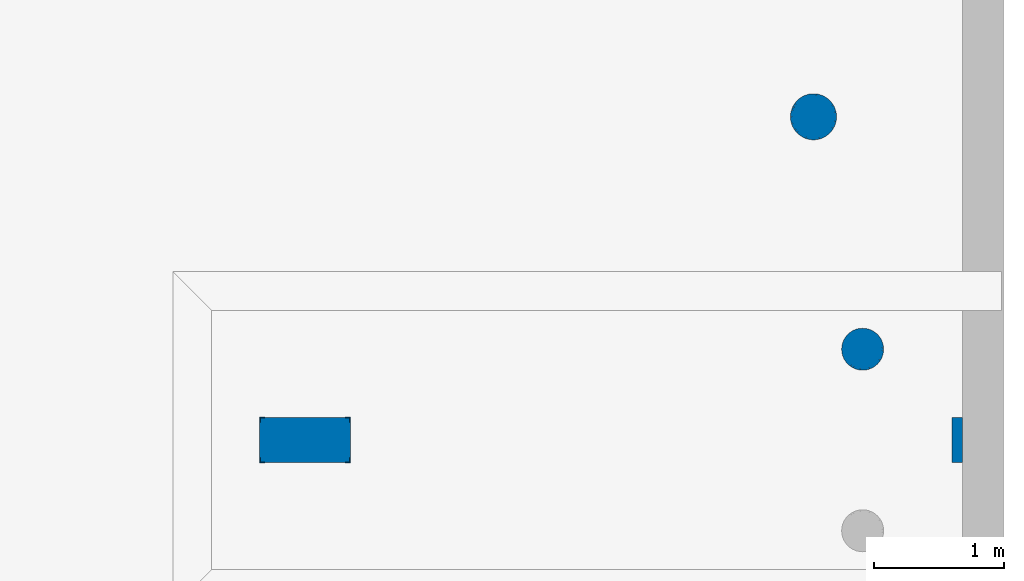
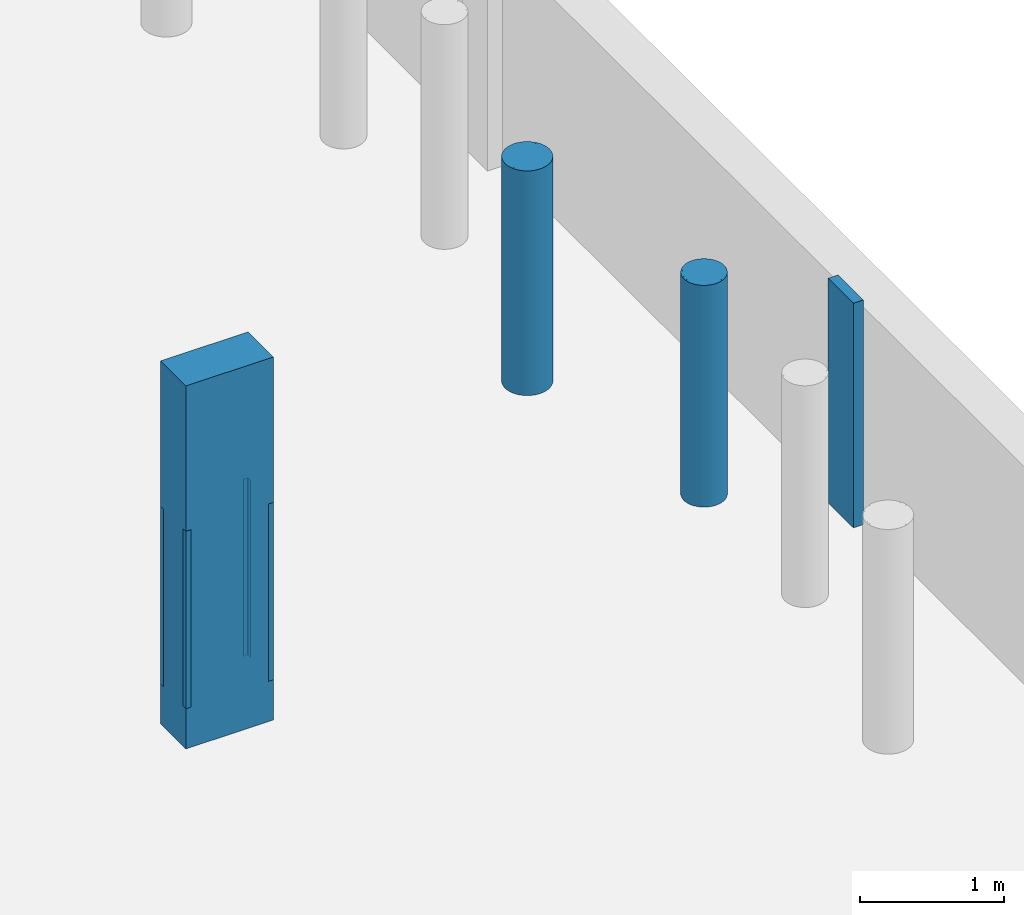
# One storey, part 18 of 42: 8 columns.
"""IFC2X3 building model written with IfcOpenShell, lengths in millimetres."""

from ifc_helpers import new_model, entity, si_unit, converted_unit, derived_unit, direction, frame, frame_2d, origin, origin_2d_with_axis, place, context, subcontext, project, spatial, polyline, circle_curve, parameter, trimmed, segment, composite_curve, rectangle, circle, hollow_circle, outline, extrude, source, transform, mapped, material, material_list, type_object, type_shapes, element, save


model = new_model("IFC2X3")

# Units and contexts
model_context = context("Model", 3, precision=0.01, world=origin(), true_north=direction((6.12303176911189e-17, 1.0)))
body_context = subcontext(model_context, "Body", "Model", "MODEL_VIEW")
ifc_project = project(units=[si_unit("LENGTHUNIT", "METRE", prefix="MILLI"), si_unit("AREAUNIT", "SQUARE_METRE", prefix="MILLI"), si_unit("VOLUMEUNIT", "CUBIC_METRE"), converted_unit("PLANEANGLEUNIT", "DEGREE", entity("IfcRatioMeasure", 0.0174532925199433), si_unit("PLANEANGLEUNIT", "RADIAN"), dimensions=[0, 0, 0, 0, 0, 0, 0]), si_unit("MASSUNIT", "GRAM", prefix="KILO"), derived_unit("MASSDENSITYUNIT", [(si_unit("MASSUNIT", "GRAM", prefix="KILO"), 1), (si_unit("LENGTHUNIT", "METRE"), -3)]), derived_unit("MOMENTOFINERTIAUNIT", [(si_unit("LENGTHUNIT", "METRE"), 4)]), si_unit("TIMEUNIT", "SECOND"), si_unit("FREQUENCYUNIT", "HERTZ"), si_unit("THERMODYNAMICTEMPERATUREUNIT", "DEGREE_CELSIUS"), derived_unit("THERMALTRANSMITTANCEUNIT", [(si_unit("MASSUNIT", "GRAM", prefix="KILO"), 1), (si_unit("THERMODYNAMICTEMPERATUREUNIT", "KELVIN"), -1), (si_unit("TIMEUNIT", "SECOND"), -3)]), derived_unit("VOLUMETRICFLOWRATEUNIT", [(si_unit("LENGTHUNIT", "METRE"), 3), (si_unit("TIMEUNIT", "SECOND"), -1)]), si_unit("ELECTRICCURRENTUNIT", "AMPERE"), si_unit("ELECTRICVOLTAGEUNIT", "VOLT"), si_unit("POWERUNIT", "WATT"), si_unit("FORCEUNIT", "NEWTON", prefix="KILO"), si_unit("ILLUMINANCEUNIT", "LUX"), si_unit("LUMINOUSFLUXUNIT", "LUMEN"), si_unit("LUMINOUSINTENSITYUNIT", "CANDELA"), derived_unit("USERDEFINED", [(si_unit("MASSUNIT", "GRAM", prefix="KILO"), -1), (si_unit("LENGTHUNIT", "METRE"), -2), (si_unit("TIMEUNIT", "SECOND"), 3), (si_unit("LUMINOUSFLUXUNIT", "LUMEN"), 1)]), derived_unit("LINEARVELOCITYUNIT", [(si_unit("LENGTHUNIT", "METRE"), 1), (si_unit("TIMEUNIT", "SECOND"), -1)]), si_unit("PRESSUREUNIT", "PASCAL"), derived_unit("USERDEFINED", [(si_unit("LENGTHUNIT", "METRE"), -2), (si_unit("MASSUNIT", "GRAM", prefix="KILO"), 1), (si_unit("TIMEUNIT", "SECOND"), -2)]), derived_unit("LINEARFORCEUNIT", [(si_unit("MASSUNIT", "GRAM", prefix="KILO"), 1), (si_unit("LENGTHUNIT", "METRE"), 1), (si_unit("TIMEUNIT", "SECOND"), -2), (si_unit("LENGTHUNIT", "METRE"), -1)]), derived_unit("PLANARFORCEUNIT", [(si_unit("MASSUNIT", "GRAM", prefix="KILO"), 1), (si_unit("LENGTHUNIT", "METRE"), 1), (si_unit("TIMEUNIT", "SECOND"), -2), (si_unit("LENGTHUNIT", "METRE"), -2)])], contexts=[model_context])

# Site, building, storey
site_placement = place(None, origin())
site = spatial("IfcSite", under=ifc_project, at=site_placement, Name="Theater aan de Parade", CompositionType="ELEMENT")
building_placement = place(site_placement, origin())
building = spatial("IfcBuilding", under=site, at=building_placement, Name="Theater aan de Parade", CompositionType="ELEMENT")
storey_placement = place(building_placement, frame((0.0, 0.0, -3300.0)))
storey = spatial("IfcBuildingStorey", under=building, at=storey_placement, Name="-1 kelder", CompositionType="ELEMENT", Elevation=-3300.0)

# Columns
ifc_material_1 = material(Name="00_PBT_MAT_beton t.p.g.")
column_type_1 = type_object("IfcColumnType", Name="28_PBT_SC_beton_rechthoekig:700x350_bestaand", PredefinedType="COLUMN", material=ifc_material_1)
shared_shape_1 = source(origin(), body_context, "Body", "SweptSolid", [
    extrude(rectangle(XDim=349.999999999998, YDim=700.000000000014, at=origin_2d_with_axis()), frame((83290.0, 34970.0, -2640.0), z_axis=(0.0, 0.0, 1.0), x_axis=(0.0, -1.0, 0.0)), (0.0, 0.0, 1.0), 3070.00000000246),
])
type_shapes(column_type_1, [shared_shape_1])
column_1_placement = place(storey_placement, frame((0.0, 0.0, 3300.0)))
element("IfcColumn", 1, at=column_1_placement, inside=storey, type_object=column_type_1, material=ifc_material_1, Name="28_PBT_SC_beton_rechthoekig:700x350_bestaand", ObjectType="28_PBT_SC_beton_rechthoekig:700x350_bestaand", context=body_context, shape_type="MappedRepresentation", body=[
    mapped(shared_shape_1, transform((0.0, 0.0, 0.0), scale=1.0)),
])
ifc_material_2 = material(Name="00_PBT_MAT_staal")
column_type_2 = type_object("IfcColumnType", Name="28_PBT_SC_staal_L-profiel:L40x40x4_bestaand", PredefinedType="COLUMN", material=ifc_material_2)
shared_shape_2 = source(origin(), body_context, "Body", "SweptSolid", [
    extrude(outline(composite_curve([segment(polyline([(-15.1111111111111, -15.1111111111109), (24.8888888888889, -15.1111111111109)]), True, "CONTINUOUS"), segment(polyline([(24.8888888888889, -15.1111111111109), (24.8888888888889, -14.1111111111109)]), True, "CONTINUOUS"), segment(trimmed(circle_curve(frame_2d((21.8888888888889, -14.1111111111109), x_axis=(1.0, 0.0)), 3.0), [parameter(0.0)], [parameter(90.0000000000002)], True, "PARAMETER"), True, "CONTINUOUS"), segment(polyline([(21.8888888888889, -11.1111111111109), (-5.11111111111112, -11.1111111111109)]), True, "CONTINUOUS"), segment(trimmed(circle_curve(frame_2d((-5.11111111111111, -5.11111111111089), x_axis=(0.0, -1.0)), 6.0), [parameter(270.0)], [parameter(0.0)], True, "PARAMETER"), False, "CONTINUOUS"), segment(polyline([(-11.1111111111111, -5.11111111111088), (-11.1111111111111, 21.8888888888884)]), True, "CONTINUOUS"), segment(trimmed(circle_curve(frame_2d((-14.1111111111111, 21.8888888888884), x_axis=(1.0, 0.0)), 3.0), [parameter(0.0)], [parameter(90.0000000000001)], True, "PARAMETER"), True, "CONTINUOUS"), segment(polyline([(-14.1111111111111, 24.8888888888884), (-15.1111111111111, 24.8888888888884)]), True, "CONTINUOUS"), segment(polyline([(-15.1111111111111, 24.8888888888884), (-15.1111111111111, -15.1111111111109)]), True, "CONTINUOUS")], self_intersect=False)), frame((3.91111111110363, -3.9111111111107, -2300.0), z_axis=(0.0, 0.0, 1.0), x_axis=(0.0, -1.0, 0.0)), (0.0, 0.0, 1.0), 1500.0),
])
type_shapes(column_type_2, [shared_shape_2])
column_2_placement = place(storey_placement, frame((82951.2000000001, 35133.7999999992, 3300.0)))
element("IfcColumn", 2, at=column_2_placement, inside=storey, type_object=column_type_2, material=ifc_material_2, Name="28_PBT_SC_staal_L-profiel:L40x40x4_bestaand", ObjectType="28_PBT_SC_staal_L-profiel:L40x40x4_bestaand", context=body_context, shape_type="MappedRepresentation", body=[
    mapped(shared_shape_2, transform((0.0, 0.0, 0.0), scale=1.0)),
])
column_3_placement = place(storey_placement, frame((83628.7999999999, 34806.1999999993, 3300.0), z_axis=(0.0, 0.0, 1.0), x_axis=(-1.0, 0.0, 0.0)))
element("IfcColumn", 3, at=column_3_placement, inside=storey, type_object=column_type_2, material=ifc_material_2, Name="28_PBT_SC_staal_L-profiel:L40x40x4_bestaand", ObjectType="28_PBT_SC_staal_L-profiel:L40x40x4_bestaand", context=body_context, shape_type="MappedRepresentation", body=[
    mapped(shared_shape_2, transform((0.0, 0.0, 0.0), scale=1.0)),
])
column_type_3 = type_object("IfcColumnType", Name="28_PBT_SC_staal_L-profiel:L40x40x4_bestaand", PredefinedType="COLUMN", material=ifc_material_2)
shared_shape_3 = source(origin(), body_context, "Body", "SweptSolid", [
    extrude(outline(composite_curve([segment(polyline([(-24.8888888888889, -15.1111111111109), (15.1111111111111, -15.1111111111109)]), True, "CONTINUOUS"), segment(polyline([(15.1111111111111, -15.1111111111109), (15.1111111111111, 24.8888888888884)]), True, "CONTINUOUS"), segment(polyline([(15.1111111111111, 24.8888888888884), (14.1111111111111, 24.8888888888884)]), True, "CONTINUOUS"), segment(trimmed(circle_curve(frame_2d((14.1111111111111, 21.8888888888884), x_axis=(0.0, 1.0)), 3.0), [parameter(0.0)], [parameter(89.9999999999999)], True, "PARAMETER"), True, "CONTINUOUS"), segment(polyline([(11.1111111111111, 21.8888888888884), (11.1111111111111, -5.11111111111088)]), True, "CONTINUOUS"), segment(trimmed(circle_curve(frame_2d((5.1111111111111, -5.1111111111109), x_axis=(1.0, 0.0)), 6.0), [parameter(270.0)], [parameter(0.0)], True, "PARAMETER"), False, "CONTINUOUS"), segment(polyline([(5.11111111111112, -11.1111111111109), (-21.8888888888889, -11.1111111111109)]), True, "CONTINUOUS"), segment(trimmed(circle_curve(frame_2d((-21.8888888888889, -14.1111111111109), x_axis=(0.0, 1.0)), 3.0), [parameter(0.0)], [parameter(90.0000000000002)], True, "PARAMETER"), True, "CONTINUOUS"), segment(polyline([(-24.8888888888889, -14.1111111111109), (-24.8888888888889, -15.1111111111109)]), True, "CONTINUOUS")], self_intersect=False)), frame((3.91111111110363, 3.91111111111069, -2300.0), z_axis=(0.0, 0.0, 1.0), x_axis=(0.0, -1.0, 0.0)), (0.0, 0.0, 1.0), 1500.0),
])
type_shapes(column_type_3, [shared_shape_3])
column_4_placement = place(storey_placement, frame((83628.7999999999, 35133.7999999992, 3300.0), z_axis=(0.0, 0.0, 1.0), x_axis=(-1.0, 0.0, 0.0)))
element("IfcColumn", 4, at=column_4_placement, inside=storey, type_object=column_type_3, material=ifc_material_2, Name="28_PBT_SC_staal_L-profiel:L40x40x4_bestaand", ObjectType="28_PBT_SC_staal_L-profiel:L40x40x4_bestaand", context=body_context, shape_type="MappedRepresentation", body=[
    mapped(shared_shape_3, transform((0.0, 0.0, 0.0), scale=1.0)),
])
column_5_placement = place(storey_placement, frame((82951.2000000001, 34806.1999999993, 3300.0)))
element("IfcColumn", 5, at=column_5_placement, inside=storey, type_object=column_type_3, material=ifc_material_2, Name="28_PBT_SC_staal_L-profiel:L40x40x4_bestaand", ObjectType="28_PBT_SC_staal_L-profiel:L40x40x4_bestaand", context=body_context, shape_type="MappedRepresentation", body=[
    mapped(shared_shape_3, transform((0.0, 0.0, 0.0), scale=1.0)),
])
column_type_4 = type_object("IfcColumnType", Name="16_PBT_SC_beton_rechthoekig:350x350_bestaand", PredefinedType="COLUMN", material=ifc_material_1)
shared_shape_4 = source(origin(), body_context, "Body", "SweptSolid", [
    extrude(rectangle(XDim=349.999999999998, YDim=80.0000000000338, at=frame_2d((0.0, 8.66151594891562e-12), x_axis=(1.0, 0.0))), frame((88320.0, 34970.0, -2640.0), z_axis=(0.0, 0.0, 1.0), x_axis=(0.0, -1.0, 0.0)), (0.0, 0.0, 1.0), 1900.00000000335),
])
type_shapes(column_type_4, [shared_shape_4])
column_6_placement = place(storey_placement, frame((0.0, 0.0, 3300.0)))
element("IfcColumn", 6, at=column_6_placement, inside=storey, type_object=column_type_4, material=ifc_material_1, Name="16_PBT_SC_beton_rechthoekig:350x350_bestaand", ObjectType="16_PBT_SC_beton_rechthoekig:350x350_bestaand", context=body_context, shape_type="MappedRepresentation", body=[
    mapped(shared_shape_4, transform((0.0, 0.0, 0.0), scale=1.0)),
])
ifc_material_3 = material(Name="00_PBT_MAT_staal_S355")
ifc_material_4 = material(Name="00_PBT_MAT_beton t.p.g._C40/50")
ifc_material_list_1 = material_list([ifc_material_3, ifc_material_4])
ifc_material_list_2 = material_list([ifc_material_3, ifc_material_4])
column_type_5 = type_object("IfcColumnType", Name="28_PBT_SC_staal_buis:S355_B355.6x10_GB_C40/50", PredefinedType="COLUMN", material=ifc_material_list_2)
shared_shape_5 = source(origin(), body_context, "Body", "SweptSolid", [
    extrude(hollow_circle(Radius=177.8, WallThickness=10.0, at=frame_2d((1.77837538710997e-15, -3.26747168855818e-13), x_axis=(1.0, 0.0))), frame((0.0, 0.0, -2640.0), z_axis=(0.0, 0.0, 1.0), x_axis=(-1.0, 0.0, 0.0)), (0.0, 0.0, 1.0), 1900.00000000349),
    extrude(circle(Radius=167.8, at=frame_2d((-6.17986865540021e-15, 1.42612000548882e-12), x_axis=(1.0, 0.0))), frame((0.0, 0.0, -2640.0)), (0.0, 0.0, 1.0), 1900.00000000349),
])
type_shapes(column_type_5, [shared_shape_5])
column_7_placement = place(storey_placement, frame((87211.0, 37462.4999999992, 3300.0)))
element("IfcColumn", 7, at=column_7_placement, inside=storey, type_object=column_type_5, material=ifc_material_list_1, Name="28_PBT_SC_staal_buis:S355_B355.6x10_GB_C40/50", ObjectType="28_PBT_SC_staal_buis:S355_B355.6x10_GB_C40/50", context=body_context, shape_type="MappedRepresentation", body=[
    mapped(shared_shape_5, transform((0.0, 0.0, 0.0), scale=1.0)),
])
ifc_material_list_3 = material_list([ifc_material_3, ifc_material_4])
ifc_material_list_4 = material_list([ifc_material_3, ifc_material_4])
column_type_6 = type_object("IfcColumnType", Name="28_PBT_SC_staal_buis:S355_B323.9x10_GB_C40/50", PredefinedType="COLUMN", material=ifc_material_list_4)
shared_shape_6 = source(origin(), body_context, "Body", "SweptSolid", [
    extrude(hollow_circle(Radius=161.95, WallThickness=9.99999999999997, at=frame_2d((1.77837538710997e-15, -2.97621380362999e-13), x_axis=(1.0, 0.0))), frame((0.0, 0.0, -2640.0), z_axis=(0.0, 0.0, 1.0), x_axis=(-1.0, 0.0, 0.0)), (0.0, 0.0, 1.0), 1875.00000000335),
    extrude(circle(Radius=151.95, at=frame_2d((-6.17986865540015e-15, 1.29141200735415e-12), x_axis=(1.0, 0.0))), frame((0.0, 0.0, -2640.0)), (0.0, 0.0, 1.0), 1875.00000000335),
])
type_shapes(column_type_6, [shared_shape_6])
column_8_placement = place(storey_placement, frame((87590.0, 35670.0, 3300.0)))
element("IfcColumn", 8, at=column_8_placement, inside=storey, type_object=column_type_6, material=ifc_material_list_3, Name="28_PBT_SC_staal_buis:S355_B323.9x10_GB_C40/50", ObjectType="28_PBT_SC_staal_buis:S355_B323.9x10_GB_C40/50", context=body_context, shape_type="MappedRepresentation", body=[
    mapped(shared_shape_6, transform((0.0, 0.0, 0.0), scale=1.0)),
])

save(model, "model.ifc")
